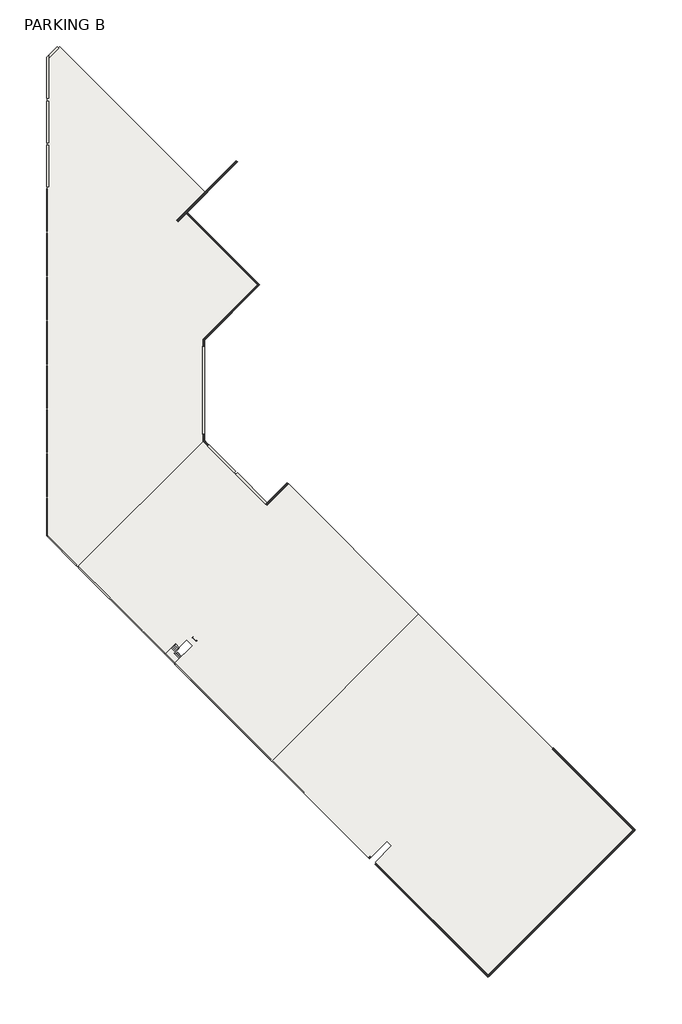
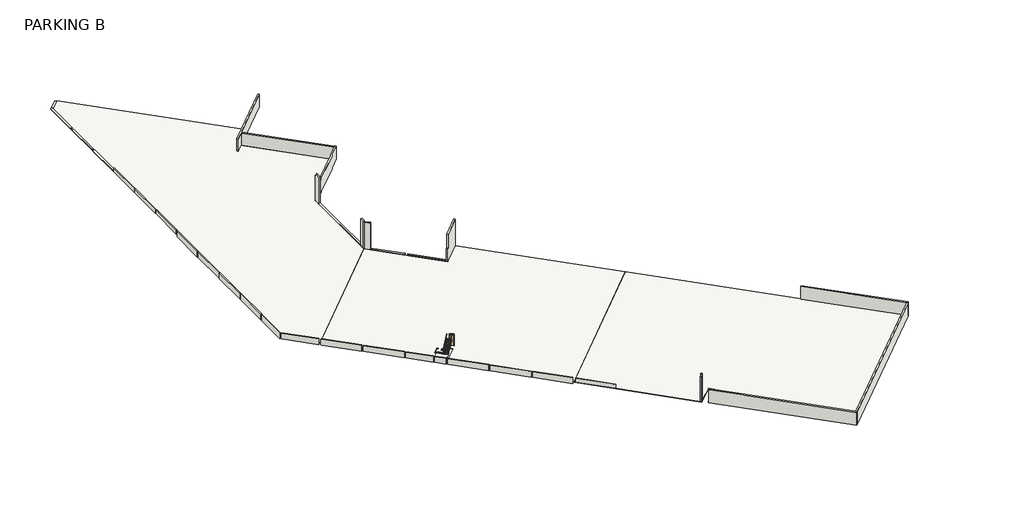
# One storey: 34 walls, 4 slabs, 2 railings, 2 stair flights, 1 column, 1 door.
"""IFC4 building model written with IfcOpenShell, lengths in millimetres."""

from ifc_helpers import new_model, si_unit, frame, origin, place, context, project, spatial, polyline, outline, extrude, faceted_brep, transform, mapped, element, save
from components import door_ce57b39e, railing_1_783200aa, railing_1_4f2961c4

model = new_model("IFC4")

# Units and contexts
model_context = context("Model", 3, world=origin())
ifc_project = project(units=[si_unit("LENGTHUNIT", "METRE", prefix="MILLI")], contexts=[model_context])

# Site, building, storey
site = spatial("IfcSite", under=ifc_project)
building = spatial("IfcBuilding", under=site)
storey = spatial("IfcBuildingStorey", under=building, Name="PARKING B", Elevation=-3200.4)

# Column
placement = place(None, origin())
element("IfcColumn", 1, ObjectType="Rectangular Column : 12\" x 16\"", at=placement, inside=storey, context=model_context, shape_type="Brep", body=[
    faceted_brep([(-19452.1642222, -28991.9680729, -3200.4), (-19236.6380753, -29207.4942198, -3200.4), (-19524.0062711, -29494.8624156, -3200.4), (-19739.532418, -29279.3362687, -3200.4), (-19452.1642222, -28991.9680729, 3225.8), (-19380.3221732, -29063.8101218, 3225.8), (-19380.3221732, -29063.8101218, 2768.6), (-19272.5590997, -29171.5731953, 2768.6), (-19272.5590997, -29171.5731953, 3225.8), (-19236.6380753, -29207.4942198, 3225.8), (-19416.2431977, -29387.0993422, 3225.8), (-19416.2431977, -29387.0993422, 2717.8), (-19524.0062711, -29494.8624156, 2717.8), (-19739.532418, -29279.3362687, 2717.8), (-19739.532418, -29279.3362687, 762.0), (-19739.532418, -29279.3362687, -152.4), (-19631.7693446, -29171.5731953, 2717.8), (-19631.7693446, -29171.5731953, 3225.8), (-19452.1642222, -29351.1783177, 3225.8), (-19559.9272956, -29243.4152442, 2768.6), (-19559.9272956, -29243.4152442, 3225.8), (-19452.1642222, -29351.1783177, 2768.6)], [[[0, 1, 2, 3]], [[1, 0, 4, 5, 6, 7, 8, 9]], [[2, 1, 9, 10, 11, 12]], [[3, 2, 12, 13, 14, 15]], [[0, 3, 15, 14, 13, 16, 17, 4]], [[8, 18, 10, 9]], [[19, 6, 5, 20]], [[7, 21, 18, 8]], [[6, 19, 21, 7]], [[16, 11, 10, 18, 21, 19, 20, 17]], [[11, 16, 13, 12]], [[20, 5, 4, 17]]]),
])

# Door
door_shape = door_ce57b39e(model_context)
element("IfcDoor", 2, ObjectType="Single Flush-Full Flush-FF : 3'-0\" X 8'-6\"", at=placement, inside=storey, context=model_context, shape_type="MappedRepresentation", body=[
    mapped(door_shape, transform((-52140.2965028, 11455.1054964, -3200.4), x_axis=(-0.7071067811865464, 0.7071067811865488, 0.0), y_axis=(-0.7071067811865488, -0.7071067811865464, 0.0), z_axis=(0.0, 0.0, 1.0))),
])

# Railings
railing_1_shape = railing_1_783200aa(model_context)
element("IfcRailing", 3, ObjectType="Railing 1", at=placement, inside=storey, context=model_context, shape_type="MappedRepresentation", body=[
    mapped(railing_1_shape, transform((0.0, 0.0, 0.0), x_axis=(1.0, 0.0, 0.0), y_axis=(0.0, 1.0, 0.0), z_axis=(0.0, 0.0, 1.0))),
])
railing_1_2_shape = railing_1_4f2961c4(model_context)
element("IfcRailing", 4, ObjectType="Railing 1", at=placement, inside=storey, context=model_context, shape_type="MappedRepresentation", body=[
    mapped(railing_1_2_shape, transform((0.0, 0.0, 0.0), x_axis=(1.0, 0.0, 0.0), y_axis=(0.0, 1.0, 0.0), z_axis=(0.0, 0.0, 1.0))),
])

# Slabs
element("IfcSlab", 5, ObjectType="5\" Concrete Slab", at=placement, inside=storey, context=model_context, shape_type="SweptSolid", body=[
    extrude(outline(polyline([(2567.4237867, -51155.2401797), (-18446.3755366, -30141.4408564), (-15384.1081993, -27079.1735191), (-16246.2127869, -26217.0689314), (-19524.0062711, -29494.8624156), (-37718.0051724, -11300.8635143), (-10364.1450276, 16052.9966304), (14627.9077573, -8939.0561545), (14538.1051961, -9028.8587157), (29615.9552234, -24106.708743), (2567.4237867, -51155.2401797)])), frame((0.0, 0.0, -3327.4), z_axis=(0.0, 0.0, 1.0), x_axis=(1.0, 0.0, 0.0)), (0.0, 0.0, 1.0), 127.0),
])
element("IfcSlab", 6, ObjectType="5\" Concrete Slab", at=placement, inside=storey, context=model_context, shape_type="SweptSolid", body=[
    extrude(outline(polyline([(-50655.2083521, 48250.5607152), (-73962.318877, 24943.4501903), (-79588.713691, 30569.8450042), (-79588.713691, 119428.9506141), (-77249.0926174, 121768.5716877), (-50200.5611807, 94720.040251), (-53954.3082393, 90966.2931924), (-40412.0820087, 77424.0669618), (-50655.2083521, 67180.9406185), (-50655.2083521, 48250.5607152)])), frame((0.0, 0.0, -3327.4), z_axis=(0.0, 0.0, 1.0), x_axis=(1.0, 0.0, 0.0)), (0.0, 0.0, 1.0), 127.0),
])
element("IfcSlab", 7, ObjectType="5\" Concrete Slab", at=placement, inside=storey, context=model_context, shape_type="SweptSolid", body=[
    extrude(outline(polyline([(-10400.0660521, 16088.9176549), (-37753.9261969, -11264.9424899), (-73926.3978526, 24907.5291658), (-50577.7319378, 48256.1950806), (-38665.4221932, 36343.885336), (-34660.2279632, 40349.079566), (-10400.0660521, 16088.9176549)]), holes=[polyline([(-55714.438439, 10539.1193721), (-57528.4501755, 8725.1076356), (-55840.1620247, 7036.8194849), (-52625.2303334, 10251.7511762), (-53577.1374822, 11203.658325), (-54978.0574371, 9802.7383702), (-55714.438439, 10539.1193721)])]), frame((0.0, 0.0, -3327.4), z_axis=(0.0, 0.0, 1.0), x_axis=(1.0, 0.0, 0.0)), (0.0, 0.0, 1.0), 127.0),
])
element("IfcSlab", 8, ObjectType="7\" Thickness", at=placement, inside=storey, context=model_context, shape_type="Brep", body=[
    faceted_brep([(-57528.4501755, 8725.1076356, -2287.5875), (-55840.4519965, 7037.1094566, -2287.5875), (-55111.1223156, 7766.4391375, -2287.5875), (-55014.2684334, 7863.2930198, -2287.5875), (-55000.7980492, 7876.763404, -2287.5875), (-55737.1790511, 8613.1444059, -2287.5875), (-55750.6494353, 8599.6740217, -2287.5875), (-55789.1934084, 8561.1300486, -2287.5875), (-56004.4295835, 8776.3662237, -2287.5875), (-55869.0317282, 8911.7640791, -2287.5875), (-55768.3199758, 9012.4758315, -2287.5875), (-56504.7009777, 9748.8568334, -2287.5875), (-56605.4127301, 9648.145081, -2287.5875), (-56518.1713619, 9735.3864493, -2470.15), (-56518.1713619, 9735.3864493, -2546.0037586), (-56605.4127301, 9648.145081, -2465.3875), (-57528.4501755, 8725.1076356, -2465.3875), (-55840.4519965, 7037.1094566, -2465.3875), (-55014.2684334, 7863.2930198, -2375.8887017), (-55000.7980492, 7876.763404, -2363.4412586), (-55737.1790511, 8613.1444059, -2363.4412586), (-55750.6494353, 8599.6740217, -2375.8887017), (-55789.1934084, 8561.1300486, -2411.5056455), (-55789.1934084, 8561.1300486, -2465.3875), (-56004.4295835, 8776.3662237, -2465.3875), (-55847.5033176, 8502.8201394, -2465.3875), (-55111.1223156, 7766.4391375, -2465.3875), (-55869.0317282, 8911.7640791, -2465.3875), (-55781.7903599, 8999.0054473, -2546.0037586), (-55781.7903599, 8999.0054473, -2470.15)], [[[0, 1, 2, 3, 4, 5, 6, 7, 8, 9, 10, 11, 12]], [[11, 13, 14, 15, 16, 0, 12]], [[1, 0, 16, 17]], [[4, 3, 18, 19]], [[6, 5, 20, 21]], [[7, 6, 21, 22]], [[8, 7, 22, 23, 24]], [[23, 25, 26, 17, 16, 15, 27, 24]], [[27, 15, 14, 28]], [[26, 25, 22, 21, 20, 19, 18]], [[11, 10, 29, 13]], [[13, 29, 28, 14]], [[1, 17, 26, 18, 3, 2]], [[5, 4, 19, 20]], [[29, 10, 9, 8, 24, 27, 28]], [[25, 23, 22]]]),
])

# Stair flights
element("IfcStairFlight", 9, ObjectType="3/4\" Nosing", at=placement, inside=storey, context=model_context, shape_type="Brep", body=[
    faceted_brep([(-55714.438439, 10539.1193721, -3017.8375), (-54978.0574371, 9802.7383702, -3017.8375), (-54991.5278213, 9789.267986, -3200.4), (-55727.9088232, 10525.6489879, -3200.4), (-55925.4744579, 10328.0833532, -3017.8375), (-55189.093456, 9591.7023513, -3017.8375), (-55189.093456, 9591.7023513, -3093.6912586), (-55073.6153034, 9707.1805039, -3200.4), (-55809.9963053, 10443.5615058, -3200.4), (-55925.4744579, 10328.0833532, -3093.6912586), (-55175.6230718, 9605.1727355, -2835.275), (-55912.0040737, 10341.5537374, -2835.275), (-56123.0400925, 10130.5177186, -2835.275), (-55386.6590906, 9394.1367167, -2835.275), (-55386.6590906, 9394.1367167, -2911.1287586), (-56123.0400925, 10130.5177186, -2911.1287586), (-55373.1887064, 9407.6071008, -2652.7125), (-56109.5697084, 10143.9881028, -2652.7125), (-56320.6057272, 9932.9520839, -2652.7125), (-55584.2247253, 9196.571082, -2652.7125), (-55584.2247253, 9196.571082, -2728.5662586), (-56320.6057272, 9932.9520839, -2728.5662586), (-55781.7903599, 8999.0054473, -2470.15), (-55768.3199758, 9012.4758315, -2470.15), (-55570.7543411, 9210.0414662, -2470.15), (-56307.135343, 9946.4224681, -2470.15), (-56504.7009777, 9748.8568334, -2470.15), (-56518.1713619, 9735.3864493, -2470.15), (-55781.7903599, 8999.0054473, -2546.0037586), (-55768.3199758, 9012.4758315, -2558.4512017), (-56504.7009777, 9748.8568334, -2558.4512017), (-56518.1713619, 9735.3864493, -2546.0037586)], [[[0, 1, 2, 3]], [[1, 0, 4, 5]], [[1, 5, 6, 7, 2]], [[4, 0, 3, 8, 9]], [[10, 11, 12, 13]], [[10, 13, 14, 6, 5]], [[12, 11, 4, 9, 15]], [[5, 4, 11, 10]], [[16, 17, 18, 19]], [[16, 19, 20, 14, 13]], [[18, 17, 12, 15, 21]], [[13, 12, 17, 16]], [[22, 23, 24, 25, 26, 27]], [[23, 22, 28, 29]], [[26, 25, 18, 21, 30]], [[22, 27, 31, 28]], [[19, 18, 25, 24]], [[3, 2, 7, 8]], [[8, 7, 6, 14, 20, 29, 28, 31, 30, 21, 15, 9]], [[24, 23, 29, 20, 19]], [[27, 26, 30, 31]]]),
])
element("IfcStairFlight", 10, ObjectType="3/4\" Nosing", at=placement, inside=storey, context=model_context, shape_type="Brep", body=[
    faceted_brep([(-55014.2684334, 7863.2930198, -2105.025), (-55750.6494353, 8599.6740217, -2105.025), (-55737.1790511, 8613.1444059, -2287.5875), (-55000.7980492, 7876.763404, -2287.5875), (-54803.2324145, 8074.3290386, -2105.025), (-55539.6134164, 8810.7100406, -2105.025), (-55539.6134164, 8810.7100406, -2180.8787586), (-55737.1790511, 8613.1444059, -2363.4412586), (-55000.7980492, 7876.763404, -2363.4412586), (-54803.2324145, 8074.3290386, -2180.8787586), (-55553.0838006, 8797.2396564, -1922.4625), (-54816.7027987, 8060.8586544, -1922.4625), (-54605.6667799, 8271.8946733, -1922.4625), (-55342.0477818, 9008.2756752, -1922.4625), (-55342.0477818, 9008.2756752, -1998.3162586), (-54605.6667799, 8271.8946733, -1998.3162586), (-55355.518166, 8994.805291, -1739.9), (-54619.137164, 8258.4242891, -1739.9), (-54408.1011452, 8469.460308, -1739.9), (-55144.4821471, 9205.8413099, -1739.9), (-55144.4821471, 9205.8413099, -1815.7537586), (-54408.1011452, 8469.460308, -1815.7537586), (-55157.9525313, 9192.3709257, -1557.3375), (-54421.5715294, 8455.9899238, -1557.3375), (-54210.5355105, 8667.0259426, -1557.3375), (-54946.9165125, 9403.4069445, -1557.3375), (-54946.9165125, 9403.4069445, -1633.1912586), (-54210.5355105, 8667.0259426, -1633.1912586), (-54960.3868966, 9389.9365604, -1374.775), (-54224.0058947, 8653.5555584, -1374.775), (-54012.9698759, 8864.5915773, -1374.775), (-54749.3508778, 9600.9725792, -1374.775), (-54749.3508778, 9600.9725792, -1450.6287586), (-54012.9698759, 8864.5915773, -1450.6287586), (-54762.821262, 9587.502195, -1192.2125), (-54026.44026, 8851.1211931, -1192.2125), (-53815.4042412, 9062.1572119, -1192.2125), (-54551.7852431, 9798.5382139, -1192.2125), (-54551.7852431, 9798.5382139, -1268.0662586), (-53815.4042412, 9062.1572119, -1268.0662586), (-54565.2556273, 9785.0678297, -1009.65), (-53828.8746254, 9048.6868278, -1009.65), (-53617.8386065, 9259.7228466, -1009.65), (-54354.2196085, 9996.1038485, -1009.65), (-54354.2196085, 9996.1038485, -1085.5037586), (-53617.8386065, 9259.7228466, -1085.5037586), (-54367.6899926, 9982.6334644, -827.0875), (-53631.3089907, 9246.2524624, -827.0875), (-53420.2729719, 9457.2884813, -827.0875), (-54156.6539738, 10193.6694832, -827.0875), (-54156.6539738, 10193.6694832, -902.9412586), (-53420.2729719, 9457.2884813, -902.9412586), (-54170.124358, 10180.199099, -644.525), (-53433.7433561, 9443.8180971, -644.525), (-53222.7073372, 9654.8541159, -644.525), (-53959.0883391, 10391.2351179, -644.525), (-53959.0883391, 10391.2351179, -720.3787586), (-53222.7073372, 9654.8541159, -720.3787586), (-53774.9930887, 10575.3303683, -550.2637017), (-53038.6120867, 9838.9493664, -550.2637017), (-53972.5587233, 10377.7647337, -461.9625), (-53236.1777214, 9641.3837318, -461.9625), (-53038.6120867, 9838.9493664, -461.9625), (-53774.9930887, 10575.3303683, -461.9625)], [[[0, 1, 2, 3]], [[1, 0, 4, 5]], [[1, 5, 6, 7, 2]], [[3, 2, 7, 8]], [[4, 0, 3, 8, 9]], [[10, 11, 12, 13]], [[10, 13, 14, 6, 5]], [[12, 11, 4, 9, 15]], [[11, 10, 5, 4]], [[16, 17, 18, 19]], [[16, 19, 20, 14, 13]], [[18, 17, 12, 15, 21]], [[17, 16, 13, 12]], [[22, 23, 24, 25]], [[22, 25, 26, 20, 19]], [[24, 23, 18, 21, 27]], [[23, 22, 19, 18]], [[28, 29, 30, 31]], [[28, 31, 32, 26, 25]], [[30, 29, 24, 27, 33]], [[29, 28, 25, 24]], [[34, 35, 36, 37]], [[34, 37, 38, 32, 31]], [[36, 35, 30, 33, 39]], [[35, 34, 31, 30]], [[40, 41, 42, 43]], [[40, 43, 44, 38, 37]], [[42, 41, 36, 39, 45]], [[41, 40, 37, 36]], [[46, 47, 48, 49]], [[46, 49, 50, 44, 43]], [[48, 47, 42, 45, 51]], [[47, 46, 43, 42]], [[52, 53, 54, 55]], [[52, 55, 56, 50, 49]], [[54, 53, 48, 51, 57]], [[53, 52, 49, 48]], [[7, 6, 14, 20, 26, 32, 38, 44, 50, 56, 58, 59, 57, 51, 45, 39, 33, 27, 21, 15, 9, 8]], [[60, 61, 62, 63]], [[60, 63, 58, 56, 55]], [[62, 61, 54, 57, 59]], [[63, 62, 59, 58]], [[61, 60, 55, 54]]]),
])

# Walls
element("IfcWall", 11, ObjectType="01-CONCRETE-12", at=placement, inside=storey, context=model_context, shape_type="Brep", body=[
    faceted_brep([(14538.1051961, -9028.8587157, -3200.4), (29615.9552234, -24106.708743, -3200.4), (29831.4813703, -24322.2348899, -3200.4), (29831.4813703, -24322.2348899, -152.4), (29615.9552234, -24106.708743, -152.4), (14538.1051961, -9028.8587157, -152.4), (14753.631343, -8813.3325688, -3200.4), (14753.631343, -8813.3325688, -152.4), (30047.0075172, -24106.708743, -152.4), (30047.0075172, -24106.708743, -3200.4)], [[[0, 1, 2, 3, 4, 5]], [[6, 7, 8, 9]], [[2, 1, 0, 6, 9]], [[5, 4, 3, 8, 7]], [[0, 5, 7, 6]], [[3, 2, 9, 8]]]),
])
element("IfcWall", 12, ObjectType="01-CONCRETE-12", at=placement, inside=storey, context=model_context, shape_type="SweptSolid", body=[
    extrude(outline(polyline([(2567.4237867, -51155.2401797), (29615.9552234, -24106.708743), (29831.4813703, -24322.2348899), (2782.9499336, -51370.7663266), (2567.4237867, -51155.2401797)])), frame((0.0, 0.0, -3200.4), z_axis=(0.0, 0.0, 1.0), x_axis=(1.0, 0.0, 0.0)), (0.0, 0.0, 1.0), 3048.0),
])
element("IfcWall", 13, ObjectType="01-CONCRETE-12", at=placement, inside=storey, context=model_context, shape_type="Brep", body=[
    faceted_brep([(2782.9499336, -51370.7663266, -3200.4), (2567.4237867, -51155.2401797, -3200.4), (-18302.6914387, -30285.1249543, -3200.4), (-18302.6914387, -30285.1249543, -152.4), (2567.4237867, -51155.2401797, -152.4), (2782.9499336, -51370.7663266, -152.4), (2567.4237867, -51586.2924735, -3200.4), (2567.4237867, -51586.2924735, -152.4), (-13489.2741578, -35529.594529, -152.4), (-13704.8003047, -35314.0683821, -152.4), (-18518.2175856, -30500.6511012, -152.4), (-18518.2175856, -30500.6511012, -279.4), (-18518.2175856, -30500.6511012, -3200.4)], [[[0, 1, 2, 3, 4, 5]], [[6, 7, 8, 9, 10, 11, 12]], [[2, 1, 0, 6, 12]], [[5, 4, 3, 10, 9, 8, 7]], [[0, 5, 7, 6]], [[3, 2, 12, 11, 10]]]),
])
element("IfcWall", 14, ObjectType="01-CONCRETE-12", at=placement, inside=storey, context=model_context, shape_type="Brep", body=[
    faceted_brep([(-34875.7541101, 40564.6057129, -3200.4), (-38593.5801442, 36846.7796788, -3200.4), (-38880.9483401, 36559.4114829, -3200.4), (-38880.9483401, 36559.4114829, -3048.0), (-38880.9483401, 36559.4114829, -152.4), (-38701.3432177, 36739.0166053, -152.4), (-38701.3432177, 36739.0166053, 762.0), (-38701.3432177, 36739.0166053, 3098.8), (-34875.7541101, 40564.6057129, 3098.8), (-34660.2279632, 40349.079566, -3200.4), (-34660.2279632, 40349.079566, 3098.8), (-38485.8170708, 36523.4904584, 3098.8), (-38485.8170708, 36523.4904584, -152.4), (-38665.4221932, 36343.885336, -152.4), (-38665.4221932, 36343.885336, -3200.4)], [[[0, 1, 2, 3, 4, 5, 6, 7, 8]], [[9, 10, 11, 12, 13, 14]], [[2, 1, 0, 9, 14]], [[8, 7, 11, 10]], [[0, 8, 10, 9]], [[12, 5, 4, 13]], [[4, 3, 2, 14, 13]], [[7, 6, 5, 12, 11]]]),
])
element("IfcWall", 15, ObjectType="01-CONCRETE-12", at=placement, inside=storey, context=model_context, shape_type="Brep", body=[
    faceted_brep([(-50553.6083521, 48303.9135439, -3200.4), (-49697.6668379, 47447.9720297, -3200.4), (-49697.6668379, 47447.9720297, 3098.8), (-50553.6083521, 48303.9135439, 3098.8), (-50553.6083521, 48734.9658377, -3200.4), (-50553.6083521, 48734.9658377, 3098.8), (-50248.8083521, 48430.1658377, 3098.8), (-49482.140691, 47663.4981766, 3098.8), (-49482.140691, 47663.4981766, -3200.4), (-50248.8083521, 48430.1658377, -3200.4)], [[[0, 1, 2, 3]], [[4, 5, 6, 7, 8, 9]], [[1, 0, 4, 9, 8]], [[2, 1, 8, 7]], [[3, 2, 7, 6, 5]], [[0, 3, 5, 4]]]),
])
element("IfcWall", 16, ObjectType="01-CONCRETE-12", at=placement, inside=storey, context=model_context, shape_type="Brep", body=[
    faceted_brep([(-50248.8083521, 48430.1658377, -3200.4), (-50248.8083521, 49637.0396908, -3200.4), (-50248.8083521, 49637.0396908, -3048.0), (-50248.8083521, 49637.0396908, -152.4), (-50248.8083521, 49637.0396908, 762.0), (-50248.8083521, 49637.0396908, 3098.8), (-50248.8083521, 48430.1658377, 3098.8), (-50553.6083521, 48734.9658377, -3200.4), (-50553.6083521, 48734.9658377, 3098.8), (-50553.6083521, 49637.0396908, 3098.8), (-50553.6083521, 49637.0396908, -3200.4)], [[[0, 1, 2, 3, 4, 5, 6]], [[7, 8, 9, 10]], [[1, 0, 7, 10]], [[5, 4, 3, 2, 1, 10, 9]], [[6, 5, 9, 8]], [[0, 6, 8, 7]]]),
])
element("IfcWall", 17, ObjectType="01-CONCRETE-12", at=placement, inside=storey, context=model_context, shape_type="Brep", body=[
    faceted_brep([(-50248.8083521, 66032.7396908, -3200.4), (-50248.8083521, 67156.2883246, -3200.4), (-50248.8083521, 67587.3406185, -3200.4), (-50248.8083521, 67587.3406185, -152.4), (-50248.8083521, 67587.3406185, 2768.6), (-50248.8083521, 67371.8144716, 2768.6), (-50248.8083521, 67371.8144716, 3098.8), (-50248.8083521, 67156.2883246, 3098.8), (-50248.8083521, 66032.7396908, 3098.8), (-50248.8083521, 66032.7396908, 762.0), (-50248.8083521, 66032.7396908, -152.4), (-50248.8083521, 66032.7396908, -3048.0), (-50553.6083521, 66032.7396908, -3200.4), (-50553.6083521, 66032.7396908, 3098.8), (-50553.6083521, 67067.0144716, 3098.8), (-50553.6083521, 67067.0144716, 2768.6), (-50553.6083521, 67282.5406185, 2768.6), (-50553.6083521, 67282.5406185, -3200.4)], [[[0, 1, 2, 3, 4, 5, 6, 7, 8, 9, 10, 11]], [[12, 13, 14, 15, 16, 17]], [[2, 1, 0, 12, 17]], [[8, 7, 6, 14, 13]], [[0, 11, 10, 9, 8, 13, 12]], [[15, 5, 4, 16]], [[2, 17, 16, 4, 3]], [[6, 5, 15, 14]]]),
])
element("IfcWall", 18, ObjectType="01-CONCRETE-12", at=placement, inside=storey, context=model_context, shape_type="Brep", body=[
    faceted_brep([(-50248.8083521, 67156.2883246, -3200.4), (-48171.0232973, 69234.0733794, -3200.4), (-47955.4971504, 69449.5995263, -3200.4), (-42351.8173309, 75053.2793459, -3200.4), (-42136.291184, 75268.8054928, -3200.4), (-39981.0297149, 77424.0669618, -3200.4), (-39981.0297149, 77424.0669618, -152.4), (-42136.291184, 75268.8054928, -152.4), (-42351.8173309, 75053.2793459, -152.4), (-47955.4971504, 69449.5995263, -152.4), (-48171.0232973, 69234.0733794, -152.4), (-50248.8083521, 67156.2883246, -152.4), (-50248.8083521, 67587.3406185, -3200.4), (-50248.8083521, 67587.3406185, -152.4), (-48386.5494442, 69449.5995263, -152.4), (-48171.0232973, 69665.1256732, -152.4), (-42567.3434778, 75268.8054928, -152.4), (-42351.8173309, 75484.3316397, -152.4), (-40196.5558618, 77639.5931087, -152.4), (-40196.5558618, 77639.5931087, -279.4), (-40196.5558618, 77639.5931087, -3200.4), (-40412.0820087, 77424.0669618, -3200.4), (-42351.8173309, 75484.3316397, -3200.4), (-42567.3434778, 75268.8054928, -3200.4), (-48171.0232973, 69665.1256732, -3200.4), (-48386.5494442, 69449.5995263, -3200.4)], [[[0, 1, 2, 3, 4, 5, 6, 7, 8, 9, 10, 11]], [[12, 13, 14, 15, 16, 17, 18, 19, 20, 21, 22, 23, 24, 25]], [[5, 4, 3, 2, 1, 0, 12, 25, 24, 23, 22, 21, 20]], [[11, 10, 9, 8, 7, 6, 18, 17, 16, 15, 14, 13]], [[0, 11, 13, 12]], [[6, 5, 20, 19, 18]]]),
])
element("IfcWall", 19, ObjectType="01-CONCRETE-12", at=placement, inside=storey, context=model_context, shape_type="SweptSolid", body=[
    extrude(outline(polyline([(-53451.4138965, 90894.4511434), (-40196.5558618, 77639.5931087), (-40412.0820087, 77424.0669618), (-53666.9400434, 90678.9249965), (-53451.4138965, 90894.4511434)])), frame((0.0, 0.0, -3200.4), z_axis=(0.0, 0.0, 1.0), x_axis=(1.0, 0.0, 0.0)), (0.0, 0.0, 1.0), 2921.0),
])
element("IfcWall", 20, ObjectType="01-CONCRETE-12", at=placement, inside=storey, context=model_context, shape_type="SweptSolid", body=[
    extrude(outline(polyline([(-44147.8685551, 100341.6805828), (-55247.4651207, 89242.0840171), (-55462.9912676, 89457.610164), (-44363.394702, 100557.2067297), (-44147.8685551, 100341.6805828)])), frame((0.0, 0.0, -3200.4), z_axis=(0.0, 0.0, 1.0), x_axis=(1.0, 0.0, 0.0)), (0.0, 0.0, 1.0), 2921.0),
])
element("IfcWall", 21, ObjectType="01-CONCRETE-16", at=placement, inside=storey, context=model_context, shape_type="SweptSolid", body=[
    extrude(outline(polyline([(-44165.8290673, 42419.0286019), (-38593.5801442, 36846.7796788), (-38880.9483401, 36559.4114829), (-44453.1972632, 42131.660406), (-44165.8290673, 42419.0286019)])), frame((0.0, 0.0, -3200.4), z_axis=(0.0, 0.0, 1.0), x_axis=(1.0, 0.0, 0.0)), (0.0, 0.0, 1.0), 152.4),
])
element("IfcWall", 22, ObjectType="01-CONCRETE-16", at=placement, inside=storey, context=model_context, shape_type="Brep", body=[
    faceted_brep([(-49733.5878624, 47412.0510052, -3200.4), (-44776.4864836, 42454.9496264, -3200.4), (-44776.4864836, 42454.9496264, -3048.0), (-49733.5878624, 47412.0510052, -3048.0), (-49446.2196665, 47699.4192011, -3200.4), (-49446.2196665, 47699.4192011, -3048.0), (-44489.1182877, 42742.3178222, -3048.0), (-44489.1182877, 42742.3178222, -3200.4), (-49697.6668379, 47447.9720297, -3200.4), (-49482.140691, 47663.4981766, -3200.4)], [[[0, 1, 2, 3]], [[4, 5, 6, 7]], [[1, 0, 8, 9, 4, 7]], [[2, 1, 7, 6]], [[3, 2, 6, 5]], [[0, 3, 5, 4, 9, 8]]]),
])
element("IfcWall", 23, ObjectType="01-CONCRETE-16", at=placement, inside=storey, context=model_context, shape_type="Brep", body=[
    faceted_brep([(-50248.8083521, 49637.0396908, -3200.4), (-50248.8083521, 57682.4896908, -3200.4), (-50248.8083521, 57987.2896908, -3200.4), (-50248.8083521, 66032.7396908, -3200.4), (-50248.8083521, 66032.7396908, -3048.0), (-50248.8083521, 57987.2896908, -3048.0), (-50248.8083521, 57682.4896908, -3048.0), (-50248.8083521, 49637.0396908, -3048.0), (-50655.2083521, 49637.0396908, -3200.4), (-50655.2083521, 49637.0396908, -3048.0), (-50655.2083521, 57682.4896908, -3048.0), (-50655.2083521, 57987.2896908, -3048.0), (-50655.2083521, 66032.7396908, -3048.0), (-50655.2083521, 66032.7396908, -3200.4), (-50655.2083521, 57987.2896908, -3200.4), (-50655.2083521, 57682.4896908, -3200.4), (-50553.6083521, 49637.0396908, -3200.4), (-50553.6083521, 66032.7396908, -3200.4)], [[[0, 1, 2, 3, 4, 5, 6, 7]], [[8, 9, 10, 11, 12, 13, 14, 15]], [[3, 2, 1, 0, 16, 8, 15, 14, 13, 17]], [[4, 3, 17, 13, 12]], [[7, 6, 5, 4, 12, 11, 10, 9]], [[0, 7, 9, 8, 16]]]),
])
element("IfcWall", 24, ObjectType="01-CONCRETE-16", at=placement, inside=storey, context=model_context, shape_type="SweptSolid", body=[
    extrude(outline(polyline([(-79741.113691, 103948.2660287), (-79741.113691, 111644.4660287), (-79334.713691, 111644.4660287), (-79334.713691, 103948.2660287), (-79741.113691, 103948.2660287)])), frame((0.0, 0.0, -3200.4), z_axis=(0.0, 0.0, 1.0), x_axis=(1.0, 0.0, 0.0)), (0.0, 0.0, 1.0), 152.4),
])
element("IfcWall", 25, ObjectType="01-CONCRETE-16", at=placement, inside=storey, context=model_context, shape_type="Brep", body=[
    faceted_brep([(-79334.713691, 112177.8660287, -3200.4), (-79334.713691, 119682.9506141, -3200.4), (-79334.713691, 120257.6870058, -3200.4), (-79334.713691, 120257.6870058, -3048.0), (-79334.713691, 119682.9506141, -3048.0), (-79334.713691, 112177.8660287, -3048.0), (-79741.113691, 112177.8660287, -3200.4), (-79741.113691, 112177.8660287, -3048.0), (-79741.113691, 119851.2870058, -3048.0), (-79741.113691, 119851.2870058, -3200.4), (-79525.587544, 120066.8131527, -3200.4), (-79525.587544, 120066.8131527, -3048.0)], [[[0, 1, 2, 3, 4, 5]], [[6, 7, 8, 9]], [[2, 1, 0, 6, 9, 10]], [[5, 4, 3, 11, 8, 7]], [[0, 5, 7, 6]], [[3, 2, 10, 9, 8, 11]]]),
])
element("IfcWall", 26, ObjectType="01-CONCRETE-16", at=placement, inside=storey, context=model_context, shape_type="Brep", body=[
    faceted_brep([(-79334.713691, 119682.9506141, -3200.4), (-79238.2193482, 119779.4449568, -3200.4), (-77464.6187643, 121553.0455407, -3200.4), (-77464.6187643, 121553.0455407, -3048.0), (-79238.2193482, 119779.4449568, -3048.0), (-79334.713691, 119682.9506141, -3048.0), (-79334.713691, 120257.6870058, -3200.4), (-79334.713691, 120257.6870058, -3048.0), (-77751.9869601, 121840.4137366, -3048.0), (-77751.9869601, 121840.4137366, -3200.4)], [[[0, 1, 2, 3, 4, 5]], [[6, 7, 8, 9]], [[2, 1, 0, 6, 9]], [[3, 2, 9, 8]], [[5, 4, 3, 8, 7]], [[0, 5, 7, 6]]]),
])
element("IfcWall", 27, ObjectType="01-CONCRETE-16", at=placement, inside=storey, context=model_context, shape_type="SweptSolid", body=[
    extrude(outline(polyline([(-79334.713691, 103440.2660287), (-79334.713691, 95718.6660287), (-79741.113691, 95718.6660287), (-79741.113691, 103440.2660287), (-79334.713691, 103440.2660287)])), frame((0.0, 0.0, -3200.4), z_axis=(0.0, 0.0, 1.0), x_axis=(1.0, 0.0, 0.0)), (0.0, 0.0, 1.0), 152.4),
])
element("IfcWall", 28, ObjectType="01-CONCRETE-6", at=placement, inside=storey, context=model_context, shape_type="SweptSolid", body=[
    extrude(outline(polyline([(-37394.7159521, -11408.6265878), (-31701.2335713, -17102.1089686), (-31808.9966447, -17209.872042), (-37502.4790255, -11516.3896613), (-37394.7159521, -11408.6265878)])), frame((0.0, 0.0, -3200.4), z_axis=(0.0, 0.0, 1.0), x_axis=(1.0, 0.0, 0.0)), (0.0, 0.0, 1.0), 914.4),
])
element("IfcWall", 29, ObjectType="01-CONCRETE-6", at=placement, inside=storey, context=model_context, shape_type="SweptSolid", body=[
    extrude(outline(polyline([(-37969.4523438, -11049.416343), (-43662.9347246, -5355.9339622), (-43555.1716511, -5248.1708888), (-37861.6892703, -10941.6532695), (-37969.4523438, -11049.416343)])), frame((0.0, 0.0, -3657.6), z_axis=(0.0, 0.0, 1.0), x_axis=(1.0, 0.0, 0.0)), (0.0, 0.0, 1.0), 1371.6),
])
element("IfcWall", 30, ObjectType="01-CONCRETE-6", at=placement, inside=storey, context=model_context, shape_type="SweptSolid", body=[
    extrude(outline(polyline([(-49589.9037645, 786.5612246), (-43770.697798, -5032.6447418), (-43878.4608715, -5140.4078153), (-49697.6668379, 678.7981512), (-49589.9037645, 786.5612246)])), frame((0.0, 0.0, -3657.6), z_axis=(0.0, 0.0, 1.0), x_axis=(1.0, 0.0, 0.0)), (0.0, 0.0, 1.0), 1371.6),
])
element("IfcWall", 31, ObjectType="01-CONCRETE-6", at=placement, inside=storey, context=model_context, shape_type="SweptSolid", body=[
    extrude(outline(polyline([(-49913.1929848, 894.3242981), (-55732.3989513, 6713.5302645), (-55624.6358778, 6821.293338), (-49805.4299114, 1002.0873715), (-49913.1929848, 894.3242981)])), frame((0.0, 0.0, -3657.6), z_axis=(0.0, 0.0, 1.0), x_axis=(1.0, 0.0, 0.0)), (0.0, 0.0, 1.0), 1371.6),
])
element("IfcWall", 32, ObjectType="01-CONCRETE-6", at=placement, inside=storey, context=model_context, shape_type="SweptSolid", body=[
    extrude(outline(polyline([(-55947.9250982, 6929.0564114), (-57636.2132489, 8617.3445622), (-57528.4501755, 8725.1076356), (-55840.1620247, 7036.8194849), (-55947.9250982, 6929.0564114)])), frame((0.0, 0.0, -3657.6), z_axis=(0.0, 0.0, 1.0), x_axis=(1.0, 0.0, 0.0)), (0.0, 0.0, 1.0), 1371.6),
])
element("IfcWall", 33, ObjectType="01-CONCRETE-6", at=placement, inside=storey, context=model_context, shape_type="SweptSolid", body=[
    extrude(outline(polyline([(-57851.7393958, 8832.8707091), (-61767.1310646, 12748.2623779), (-61659.3679912, 12856.0254513), (-57743.9763224, 8940.6337825), (-57851.7393958, 8832.8707091)])), frame((0.0, 0.0, -3657.6), z_axis=(0.0, 0.0, 1.0), x_axis=(1.0, 0.0, 0.0)), (0.0, 0.0, 1.0), 1371.6),
])
element("IfcWall", 34, ObjectType="01-CONCRETE-6", at=placement, inside=storey, context=model_context, shape_type="SweptSolid", body=[
    extrude(outline(polyline([(-67694.1001045, 18890.7575647), (-61874.8941381, 13071.5515982), (-61982.6572115, 12963.7885248), (-67801.863178, 18782.9944912), (-67694.1001045, 18890.7575647)])), frame((0.0, 0.0, -3657.6), z_axis=(0.0, 0.0, 1.0), x_axis=(1.0, 0.0, 0.0)), (0.0, 0.0, 1.0), 1371.6),
])
element("IfcWall", 35, ObjectType="01-CONCRETE-6", at=placement, inside=storey, context=model_context, shape_type="Brep", body=[
    faceted_brep([(-73836.5952914, 24817.7266046, -3657.6), (-73710.8717057, 24692.0030189, -3657.6), (-68017.3893249, 18998.5206381, -3657.6), (-68017.3893249, 18998.5206381, -2286.0), (-73710.8717057, 24692.0030189, -2286.0), (-73836.5952914, 24817.7266046, -2286.0), (-73728.8322179, 24925.489678, -3657.6), (-73728.8322179, 24925.489678, -2286.0), (-73603.1086322, 24799.7660923, -2286.0), (-67909.6262514, 19106.2837116, -2286.0), (-67909.6262514, 19106.2837116, -3657.6), (-73603.1086322, 24799.7660923, -3657.6)], [[[0, 1, 2, 3, 4, 5]], [[6, 7, 8, 9, 10, 11]], [[2, 1, 0, 6, 11, 10]], [[3, 2, 10, 9]], [[5, 4, 3, 9, 8, 7]], [[0, 5, 7, 6]]]),
])
element("IfcWall", 36, ObjectType="01-CONCRETE-6", at=placement, inside=storey, context=model_context, shape_type="SweptSolid", body=[
    extrude(outline(polyline([(-74177.845024, 25158.9763372), (-79525.587544, 30506.7188573), (-79417.8244706, 30614.4819307), (-74070.0819505, 25266.7394106), (-74177.845024, 25158.9763372)])), frame((0.0, 0.0, -3657.6), z_axis=(0.0, 0.0, 1.0), x_axis=(1.0, 0.0, 0.0)), (0.0, 0.0, 1.0), 1371.6),
])
element("IfcWall", 37, ObjectType="01-CONCRETE-6", at=placement, inside=storey, context=model_context, shape_type="Brep", body=[
    faceted_brep([(-79588.713691, 30722.2450042, -3657.6), (-79588.713691, 30874.6450042, -3657.6), (-79588.713691, 37705.0660287, -3657.6), (-79588.713691, 37705.0660287, -2286.0), (-79588.713691, 30874.6450042, -2286.0), (-79588.713691, 30722.2450042, -2286.0), (-79741.113691, 30722.2450042, -3657.6), (-79741.113691, 30722.2450042, -2286.0), (-79741.113691, 37705.0660287, -2286.0), (-79741.113691, 37705.0660287, -3657.6)], [[[0, 1, 2, 3, 4, 5]], [[6, 7, 8, 9]], [[2, 1, 0, 6, 9]], [[3, 2, 9, 8]], [[5, 4, 3, 8, 7]], [[0, 5, 7, 6]]]),
])
element("IfcWall", 38, ObjectType="01-CONCRETE-6", at=placement, inside=storey, context=model_context, shape_type="SweptSolid", body=[
    extrude(outline(polyline([(-79741.113691, 38009.8660287), (-79741.113691, 45934.6660287), (-79588.713691, 45934.6660287), (-79588.713691, 38009.8660287), (-79741.113691, 38009.8660287)])), frame((0.0, 0.0, -3657.6), z_axis=(0.0, 0.0, 1.0), x_axis=(1.0, 0.0, 0.0)), (0.0, 0.0, 1.0), 1371.6),
])
element("IfcWall", 39, ObjectType="01-CONCRETE-6", at=placement, inside=storey, context=model_context, shape_type="SweptSolid", body=[
    extrude(outline(polyline([(-79588.713691, 54164.2660287), (-79588.713691, 46239.4660287), (-79741.113691, 46239.4660287), (-79741.113691, 54164.2660287), (-79588.713691, 54164.2660287)])), frame((0.0, 0.0, -3657.6), z_axis=(0.0, 0.0, 1.0), x_axis=(1.0, 0.0, 0.0)), (0.0, 0.0, 1.0), 1371.6),
])
element("IfcWall", 40, ObjectType="01-CONCRETE-6", at=placement, inside=storey, context=model_context, shape_type="SweptSolid", body=[
    extrude(outline(polyline([(-79741.113691, 54469.0660287), (-79741.113691, 62393.8660287), (-79588.713691, 62393.8660287), (-79588.713691, 54469.0660287), (-79741.113691, 54469.0660287)])), frame((0.0, 0.0, -3657.6), z_axis=(0.0, 0.0, 1.0), x_axis=(1.0, 0.0, 0.0)), (0.0, 0.0, 1.0), 1371.6),
])
element("IfcWall", 41, ObjectType="01-CONCRETE-6", at=placement, inside=storey, context=model_context, shape_type="SweptSolid", body=[
    extrude(outline(polyline([(-79588.713691, 70623.4660287), (-79588.713691, 62698.6660287), (-79741.113691, 62698.6660287), (-79741.113691, 70623.4660287), (-79588.713691, 70623.4660287)])), frame((0.0, 0.0, -3657.6), z_axis=(0.0, 0.0, 1.0), x_axis=(1.0, 0.0, 0.0)), (0.0, 0.0, 1.0), 1371.6),
])
element("IfcWall", 42, ObjectType="01-CONCRETE-6", at=placement, inside=storey, context=model_context, shape_type="SweptSolid", body=[
    extrude(outline(polyline([(-79741.113691, 70928.2660287), (-79741.113691, 78853.0660287), (-79588.713691, 78853.0660287), (-79588.713691, 70928.2660287), (-79741.113691, 70928.2660287)])), frame((0.0, 0.0, -3200.4), z_axis=(0.0, 0.0, 1.0), x_axis=(1.0, 0.0, 0.0)), (0.0, 0.0, 1.0), 914.4),
])
element("IfcWall", 43, ObjectType="01-CONCRETE-6", at=placement, inside=storey, context=model_context, shape_type="SweptSolid", body=[
    extrude(outline(polyline([(-79588.713691, 87082.6660287), (-79588.713691, 79157.8660287), (-79741.113691, 79157.8660287), (-79741.113691, 87082.6660287), (-79588.713691, 87082.6660287)])), frame((0.0, 0.0, -3200.4), z_axis=(0.0, 0.0, 1.0), x_axis=(1.0, 0.0, 0.0)), (0.0, 0.0, 1.0), 914.4),
])
element("IfcWall", 44, ObjectType="01-CONCRETE-6", at=placement, inside=storey, context=model_context, shape_type="SweptSolid", body=[
    extrude(outline(polyline([(-79741.113691, 87387.4660287), (-79741.113691, 95312.2660287), (-79588.713691, 95312.2660287), (-79588.713691, 87387.4660287), (-79741.113691, 87387.4660287)])), frame((0.0, 0.0, -3200.4), z_axis=(0.0, 0.0, 1.0), x_axis=(1.0, 0.0, 0.0)), (0.0, 0.0, 1.0), 914.4),
])

save(model, "model.ifc")
